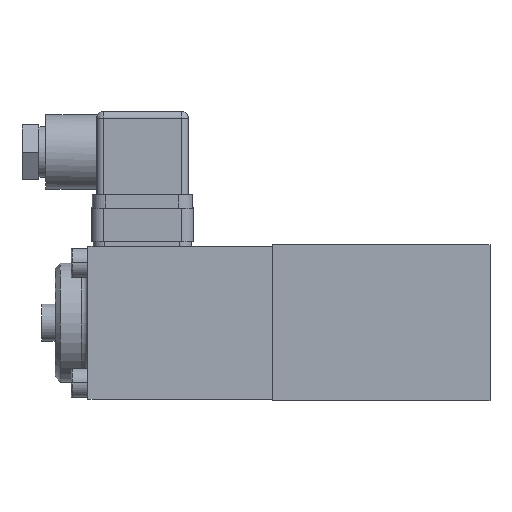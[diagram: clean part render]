
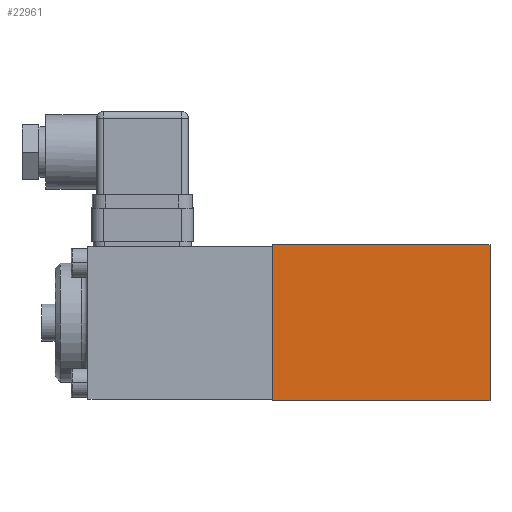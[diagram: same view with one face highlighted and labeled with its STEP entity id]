
A CAD part, top view. The second image highlights one B-rep face of the part: STEP entity #22961.
In plain terms, the highlighted planar face has unit normal (0, 0, 1).
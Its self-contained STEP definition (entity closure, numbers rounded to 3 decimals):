
#1584 = EDGE_CURVE ( 'NONE', #13461, #11590, #7897, .T. ) ;
#2717 = AXIS2_PLACEMENT_3D ( 'NONE', #16100, #3283, #18289 ) ;
#3283 = DIRECTION ( 'NONE',  ( 0., 0., -1. ) ) ;
#3751 = VERTEX_POINT ( 'NONE', #26638 ) ;
#4783 = DIRECTION ( 'NONE',  ( 0., -1., 0. ) ) ;
#5817 = DIRECTION ( 'NONE',  ( -1., 0., 0. ) ) ;
#6131 = EDGE_LOOP ( 'NONE', ( #11502, #21789, #8578, #18564 ) ) ;
#6409 = CARTESIAN_POINT ( 'NONE',  ( 64., 23., 23. ) ) ;
#6736 = LINE ( 'NONE', #6910, #9116 ) ;
#6760 = CARTESIAN_POINT ( 'NONE',  ( 64., 23., 23. ) ) ;
#6836 = CARTESIAN_POINT ( 'NONE',  ( 0., 23., 23. ) ) ;
#6910 = CARTESIAN_POINT ( 'NONE',  ( 64., -23., 23. ) ) ;
#6996 = DIRECTION ( 'NONE',  ( 0., -1., 0. ) ) ;
#7897 = LINE ( 'NONE', #19113, #19996 ) ;
#8578 = ORIENTED_EDGE ( 'NONE', *, *, #10467, .F. ) ;
#8818 = LINE ( 'NONE', #17182, #12279 ) ;
#9116 = VECTOR ( 'NONE', #4783, 1000. ) ;
#10467 = EDGE_CURVE ( 'NONE', #25718, #3751, #6736, .T. ) ;
#11502 = ORIENTED_EDGE ( 'NONE', *, *, #1584, .T. ) ;
#11590 = VERTEX_POINT ( 'NONE', #21584 ) ;
#12279 = VECTOR ( 'NONE', #5817, 1000. ) ;
#13461 = VERTEX_POINT ( 'NONE', #6836 ) ;
#14530 = DIRECTION ( 'NONE',  ( -1., 0., 0. ) ) ;
#16100 = CARTESIAN_POINT ( 'NONE',  ( 64., -23., 23. ) ) ;
#16304 = EDGE_CURVE ( 'NONE', #3751, #11590, #8818, .T. ) ;
#17088 = EDGE_CURVE ( 'NONE', #25718, #13461, #26368, .T. ) ;
#17182 = CARTESIAN_POINT ( 'NONE',  ( 64., -23., 23. ) ) ;
#18289 = DIRECTION ( 'NONE',  ( -1., 0., 0. ) ) ;
#18564 = ORIENTED_EDGE ( 'NONE', *, *, #17088, .T. ) ;
#19113 = CARTESIAN_POINT ( 'NONE',  ( 0., -23., 23. ) ) ;
#19996 = VECTOR ( 'NONE', #6996, 1000. ) ;
#20360 = PLANE ( 'NONE',  #2717 ) ;
#20690 = VECTOR ( 'NONE', #14530, 1000. ) ;
#21584 = CARTESIAN_POINT ( 'NONE',  ( 0., -23., 23. ) ) ;
#21789 = ORIENTED_EDGE ( 'NONE', *, *, #16304, .F. ) ;
#22961 = ADVANCED_FACE ( 'NONE', ( #25057 ), #20360, .F. ) ;
#25057 = FACE_OUTER_BOUND ( 'NONE', #6131, .T. ) ;
#25718 = VERTEX_POINT ( 'NONE', #6760 ) ;
#26368 = LINE ( 'NONE', #6409, #20690 ) ;
#26638 = CARTESIAN_POINT ( 'NONE',  ( 64., -23., 23. ) ) ;
